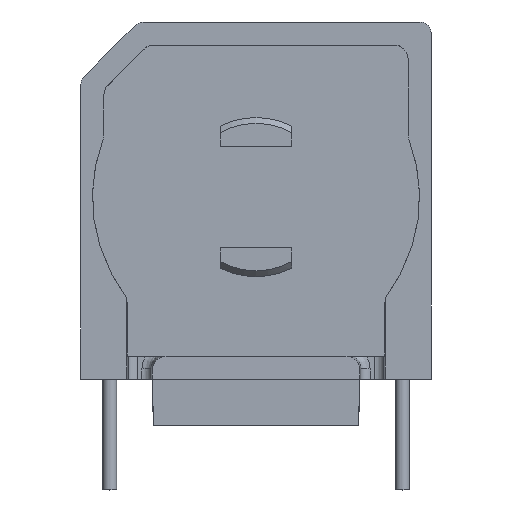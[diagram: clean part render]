
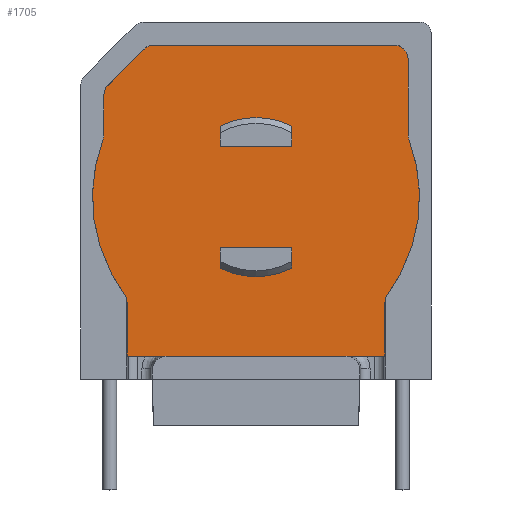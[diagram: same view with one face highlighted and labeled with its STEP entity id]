
A CAD part, top view. The second image highlights one B-rep face of the part: STEP entity #1705.
In plain terms, the highlighted planar face has unit normal (0, 0, 1).
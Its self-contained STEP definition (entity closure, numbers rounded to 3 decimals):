
#24=FACE_BOUND('',#343,.T.);
#25=FACE_BOUND('',#344,.T.);
#237=FACE_OUTER_BOUND('',#342,.T.);
#342=EDGE_LOOP('',(#1442,#1443,#1444,#1445,#1446,#1447,#1448,#1449,#1450,
#1451,#1452,#1453,#1454,#1455,#1456,#1457,#1458,#1459));
#343=EDGE_LOOP('',(#1460,#1461,#1462,#1463));
#344=EDGE_LOOP('',(#1464,#1465,#1466,#1467));
#393=ELLIPSE('',#1853,0.6,0.6);
#394=ELLIPSE('',#1856,0.6,0.6);
#395=ELLIPSE('',#1868,0.6,0.6);
#419=LINE('',#2636,#559);
#422=LINE('',#2645,#562);
#489=LINE('',#2920,#629);
#492=LINE('',#2928,#632);
#497=LINE('',#2944,#637);
#507=LINE('',#2973,#647);
#508=LINE('',#2982,#648);
#509=LINE('',#2984,#649);
#510=LINE('',#2986,#650);
#511=LINE('',#2988,#651);
#512=LINE('',#2989,#652);
#513=LINE('',#2991,#653);
#514=LINE('',#2992,#654);
#515=LINE('',#2994,#655);
#516=LINE('',#2995,#656);
#559=VECTOR('',#2022,10.);
#562=VECTOR('',#2029,10.);
#629=VECTOR('',#2232,10.);
#632=VECTOR('',#2241,10.);
#637=VECTOR('',#2260,10.);
#647=VECTOR('',#2296,10.);
#648=VECTOR('',#2305,10.);
#649=VECTOR('',#2306,10.);
#650=VECTOR('',#2307,10.);
#651=VECTOR('',#2308,10.);
#652=VECTOR('',#2309,10.);
#653=VECTOR('',#2310,10.);
#654=VECTOR('',#2311,10.);
#655=VECTOR('',#2312,10.);
#656=VECTOR('',#2313,10.);
#694=CIRCLE('',#1791,3.452);
#696=CIRCLE('',#1794,3.452);
#714=CIRCLE('',#1859,0.6);
#715=CIRCLE('',#1861,7.097);
#716=CIRCLE('',#1863,0.6);
#720=CIRCLE('',#1879,0.6);
#721=CIRCLE('',#1880,7.097);
#722=CIRCLE('',#1881,0.6);
#771=VERTEX_POINT('',#2634);
#772=VERTEX_POINT('',#2635);
#775=VERTEX_POINT('',#2643);
#776=VERTEX_POINT('',#2644);
#779=VERTEX_POINT('',#2655);
#780=VERTEX_POINT('',#2659);
#849=VERTEX_POINT('',#2913);
#850=VERTEX_POINT('',#2914);
#851=VERTEX_POINT('',#2919);
#852=VERTEX_POINT('',#2923);
#853=VERTEX_POINT('',#2927);
#854=VERTEX_POINT('',#2931);
#855=VERTEX_POINT('',#2935);
#856=VERTEX_POINT('',#2939);
#857=VERTEX_POINT('',#2943);
#860=VERTEX_POINT('',#2953);
#861=VERTEX_POINT('',#2954);
#864=VERTEX_POINT('',#2975);
#865=VERTEX_POINT('',#2976);
#866=VERTEX_POINT('',#2978);
#867=VERTEX_POINT('',#2980);
#868=VERTEX_POINT('',#2983);
#869=VERTEX_POINT('',#2985);
#870=VERTEX_POINT('',#2987);
#871=VERTEX_POINT('',#2990);
#872=VERTEX_POINT('',#2993);
#935=EDGE_CURVE('',#771,#772,#419,.T.);
#939=EDGE_CURVE('',#775,#776,#422,.T.);
#945=EDGE_CURVE('',#772,#779,#694,.T.);
#947=EDGE_CURVE('',#776,#780,#696,.T.);
#1045=EDGE_CURVE('',#849,#850,#393,.T.);
#1048=EDGE_CURVE('',#851,#849,#489,.T.);
#1050=EDGE_CURVE('',#852,#851,#394,.T.);
#1052=EDGE_CURVE('',#853,#852,#492,.T.);
#1054=EDGE_CURVE('',#854,#853,#714,.T.);
#1056=EDGE_CURVE('',#855,#854,#715,.T.);
#1058=EDGE_CURVE('',#856,#855,#716,.T.);
#1060=EDGE_CURVE('',#857,#856,#497,.T.);
#1065=EDGE_CURVE('',#860,#861,#395,.T.);
#1074=EDGE_CURVE('',#850,#860,#507,.T.);
#1075=EDGE_CURVE('',#864,#865,#720,.T.);
#1076=EDGE_CURVE('',#866,#864,#721,.T.);
#1077=EDGE_CURVE('',#867,#866,#722,.T.);
#1078=EDGE_CURVE('',#861,#867,#508,.T.);
#1079=EDGE_CURVE('',#857,#868,#509,.T.);
#1080=EDGE_CURVE('',#869,#868,#510,.T.);
#1081=EDGE_CURVE('',#869,#870,#511,.T.);
#1082=EDGE_CURVE('',#865,#870,#512,.T.);
#1083=EDGE_CURVE('',#871,#775,#513,.T.);
#1084=EDGE_CURVE('',#780,#871,#514,.T.);
#1085=EDGE_CURVE('',#872,#771,#515,.T.);
#1086=EDGE_CURVE('',#779,#872,#516,.T.);
#1442=ORIENTED_EDGE('',*,*,#1075,.F.);
#1443=ORIENTED_EDGE('',*,*,#1076,.F.);
#1444=ORIENTED_EDGE('',*,*,#1077,.F.);
#1445=ORIENTED_EDGE('',*,*,#1078,.F.);
#1446=ORIENTED_EDGE('',*,*,#1065,.F.);
#1447=ORIENTED_EDGE('',*,*,#1074,.F.);
#1448=ORIENTED_EDGE('',*,*,#1045,.F.);
#1449=ORIENTED_EDGE('',*,*,#1048,.F.);
#1450=ORIENTED_EDGE('',*,*,#1050,.F.);
#1451=ORIENTED_EDGE('',*,*,#1052,.F.);
#1452=ORIENTED_EDGE('',*,*,#1054,.F.);
#1453=ORIENTED_EDGE('',*,*,#1056,.F.);
#1454=ORIENTED_EDGE('',*,*,#1058,.F.);
#1455=ORIENTED_EDGE('',*,*,#1060,.F.);
#1456=ORIENTED_EDGE('',*,*,#1079,.T.);
#1457=ORIENTED_EDGE('',*,*,#1080,.F.);
#1458=ORIENTED_EDGE('',*,*,#1081,.T.);
#1459=ORIENTED_EDGE('',*,*,#1082,.F.);
#1460=ORIENTED_EDGE('',*,*,#939,.F.);
#1461=ORIENTED_EDGE('',*,*,#1083,.F.);
#1462=ORIENTED_EDGE('',*,*,#1084,.F.);
#1463=ORIENTED_EDGE('',*,*,#947,.F.);
#1464=ORIENTED_EDGE('',*,*,#935,.F.);
#1465=ORIENTED_EDGE('',*,*,#1085,.F.);
#1466=ORIENTED_EDGE('',*,*,#1086,.F.);
#1467=ORIENTED_EDGE('',*,*,#945,.F.);
#1617=PLANE('',#1878);
#1705=ADVANCED_FACE('',(#237,#24,#25),#1617,.T.);
#1791=AXIS2_PLACEMENT_3D('',#2656,#2041,#2042);
#1794=AXIS2_PLACEMENT_3D('',#2660,#2047,#2048);
#1853=AXIS2_PLACEMENT_3D('',#2915,#2226,#2227);
#1856=AXIS2_PLACEMENT_3D('',#2924,#2236,#2237);
#1859=AXIS2_PLACEMENT_3D('',#2932,#2245,#2246);
#1861=AXIS2_PLACEMENT_3D('',#2936,#2250,#2251);
#1863=AXIS2_PLACEMENT_3D('',#2940,#2255,#2256);
#1868=AXIS2_PLACEMENT_3D('',#2955,#2270,#2271);
#1878=AXIS2_PLACEMENT_3D('',#2974,#2297,#2298);
#1879=AXIS2_PLACEMENT_3D('',#2977,#2299,#2300);
#1880=AXIS2_PLACEMENT_3D('',#2979,#2301,#2302);
#1881=AXIS2_PLACEMENT_3D('',#2981,#2303,#2304);
#2022=DIRECTION('',(0.,-1.,0.));
#2029=DIRECTION('',(0.,1.,0.));
#2041=DIRECTION('center_axis',(0.,0.,1.));
#2042=DIRECTION('ref_axis',(0.45,0.893,0.));
#2047=DIRECTION('center_axis',(0.,0.,1.));
#2048=DIRECTION('ref_axis',(-0.45,-0.893,0.));
#2226=DIRECTION('center_axis',(0.,0.,
-1.));
#2227=DIRECTION('ref_axis',(-0.383,0.924,0.));
#2232=DIRECTION('',(0.707,0.707,0.));
#2236=DIRECTION('center_axis',(0.,0.,
-1.));
#2237=DIRECTION('ref_axis',(-0.924,0.383,0.));
#2241=DIRECTION('',(0.,1.,0.));
#2245=DIRECTION('center_axis',(0.,0.,1.));
#2246=DIRECTION('ref_axis',(1.,0.,0.));
#2250=DIRECTION('center_axis',(0.,0.,-1.));
#2251=DIRECTION('ref_axis',(-0.935,0.355,0.));
#2255=DIRECTION('center_axis',(0.,0.,1.));
#2256=DIRECTION('ref_axis',(0.805,0.593,0.));
#2260=DIRECTION('',(0.,1.,0.));
#2270=DIRECTION('center_axis',(0.,0.,
-1.));
#2271=DIRECTION('ref_axis',(0.707,0.707,0.));
#2296=DIRECTION('',(1.,0.,0.));
#2297=DIRECTION('center_axis',(0.,0.,1.));
#2298=DIRECTION('ref_axis',(1.,0.,0.));
#2299=DIRECTION('center_axis',(0.,0.,1.));
#2300=DIRECTION('ref_axis',(-1.,0.,0.));
#2301=DIRECTION('center_axis',(0.,0.,-1.));
#2302=DIRECTION('ref_axis',(0.805,-0.593,0.));
#2303=DIRECTION('center_axis',(0.,0.,1.));
#2304=DIRECTION('ref_axis',(-0.935,-0.355,0.));
#2305=DIRECTION('',(0.,-1.,0.));
#2306=DIRECTION('',(1.,0.,0.));
#2307=DIRECTION('',(-1.,0.,0.));
#2308=DIRECTION('',(1.,0.,0.));
#2309=DIRECTION('',(0.,-1.,0.));
#2310=DIRECTION('',(1.,0.,0.));
#2311=DIRECTION('',(0.,-1.,0.));
#2312=DIRECTION('',(-1.,0.,0.));
#2313=DIRECTION('',(0.,1.,0.));
#2634=CARTESIAN_POINT('',(-1.553,7.705,7.));
#2635=CARTESIAN_POINT('',(-1.553,6.817,7.));
#2636=CARTESIAN_POINT('',(-1.553,6.885,7.));
#2643=CARTESIAN_POINT('',(1.553,12.095,7.));
#2644=CARTESIAN_POINT('',(1.553,12.983,7.));
#2645=CARTESIAN_POINT('',(1.553,12.915,7.));
#2655=CARTESIAN_POINT('',(1.553,6.817,7.));
#2656=CARTESIAN_POINT('Origin',(0.,9.9,7.));
#2659=CARTESIAN_POINT('',(-1.553,12.983,7.));
#2660=CARTESIAN_POINT('Origin',(0.,9.9,7.));
#2913=CARTESIAN_POINT('',(-4.86,16.322,7.));
#2914=CARTESIAN_POINT('',(-4.436,16.497,7.));
#2915=CARTESIAN_POINT('Origin',(-4.436,15.897,7.));
#2919=CARTESIAN_POINT('',(-6.422,14.76,7.));
#2920=CARTESIAN_POINT('',(-6.031,15.151,7.));
#2923=CARTESIAN_POINT('',(-6.597,14.336,7.));
#2924=CARTESIAN_POINT('Origin',(-5.997,14.336,7.));
#2927=CARTESIAN_POINT('',(-6.597,12.629,7.));
#2928=CARTESIAN_POINT('',(-6.597,11.264,7.));
#2931=CARTESIAN_POINT('',(-6.636,12.416,7.));
#2932=CARTESIAN_POINT('Origin',(-7.197,12.629,7.));
#2935=CARTESIAN_POINT('',(-5.714,5.691,7.));
#2936=CARTESIAN_POINT('Origin',(0.,9.9,7.));
#2939=CARTESIAN_POINT('',(-5.597,5.335,7.));
#2940=CARTESIAN_POINT('Origin',(-6.197,5.335,7.));
#2943=CARTESIAN_POINT('',(-5.597,3.003,7.));
#2944=CARTESIAN_POINT('',(-5.597,2.501,7.));
#2953=CARTESIAN_POINT('',(5.997,16.497,7.));
#2954=CARTESIAN_POINT('',(6.597,15.897,7.));
#2955=CARTESIAN_POINT('Origin',(5.997,15.897,7.));
#2973=CARTESIAN_POINT('',(1.582,16.497,7.));
#2974=CARTESIAN_POINT('Origin',(0.,9.9,7.));
#2975=CARTESIAN_POINT('',(5.714,5.691,7.));
#2976=CARTESIAN_POINT('',(5.597,5.335,7.));
#2977=CARTESIAN_POINT('Origin',(6.197,5.335,7.));
#2978=CARTESIAN_POINT('',(6.636,12.416,7.));
#2979=CARTESIAN_POINT('Origin',(0.,9.9,7.));
#2980=CARTESIAN_POINT('',(6.597,12.629,7.));
#2981=CARTESIAN_POINT('Origin',(7.197,12.629,7.));
#2982=CARTESIAN_POINT('',(6.597,12.899,7.));
#2983=CARTESIAN_POINT('',(-3.902,3.003,7.));
#2984=CARTESIAN_POINT('',(-5.597,3.003,7.));
#2985=CARTESIAN_POINT('',(3.902,3.003,7.));
#2986=CARTESIAN_POINT('',(5.599,3.003,7.));
#2987=CARTESIAN_POINT('',(5.597,3.003,7.));
#2988=CARTESIAN_POINT('',(-5.597,3.003,7.));
#2989=CARTESIAN_POINT('',(5.597,7.617,7.));
#2990=CARTESIAN_POINT('',(-1.553,12.095,7.));
#2991=CARTESIAN_POINT('',(0.776,12.095,7.));
#2992=CARTESIAN_POINT('',(-1.553,12.471,7.));
#2993=CARTESIAN_POINT('',(1.553,7.705,7.));
#2994=CARTESIAN_POINT('',(-0.776,7.705,7.));
#2995=CARTESIAN_POINT('',(1.553,7.329,7.));
